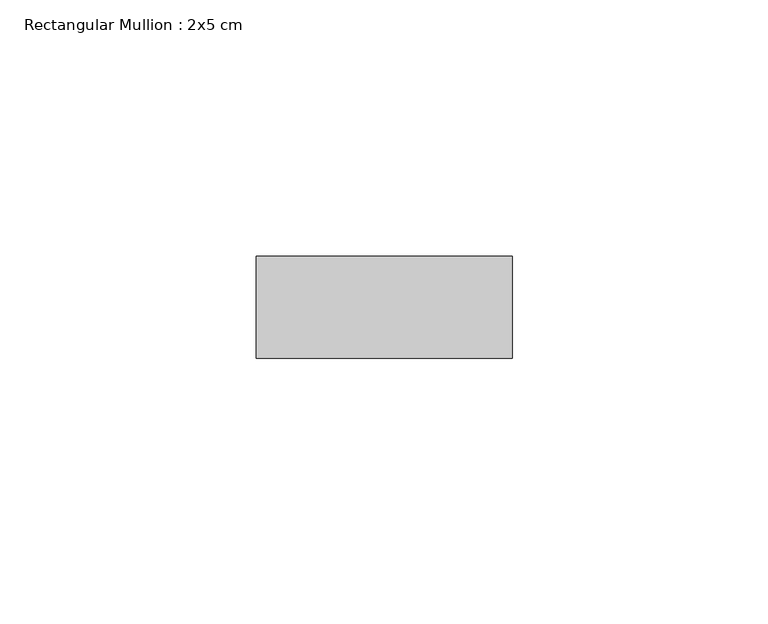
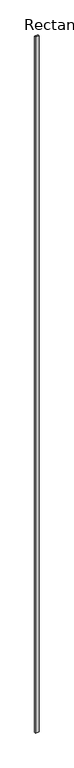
"""IFC4 building model written with IfcOpenShell, lengths in millimetres: member geometry, Rectangular Mullion : 2x5 cm."""

import ifcopenshell
import ifcopenshell.guid

model = None  # the IFC model being written
_history = None  # IfcOwnerHistory: only IFC2X3 demands one
_inside = {}  # id of a spatial element -> (the spatial element, [elements in it])
_under = {}  # id of a project, library or spatial element -> (it, [spatial elements below it])
_declared = {}  # id of a project -> (the project, [libraries it declares])
_typed = {}  # id of a type object -> (the type object, [elements of that type])
_made_of = {}  # id of a material, layer set ... -> (it, [elements and type objects made of it])


def new_model(schema):
    """Start an empty IFC model of exactly this schema.

    Asked for "IFC4X3", IfcOpenShell would pick the latest addendum, in which some entities
    have other attributes; the version numbers below select the first issue.
    IFC2X3 requires an IfcOwnerHistory on every rooted entity: one is made here for all.
    """
    global model, _history
    if schema == "IFC4X3":
        model = ifcopenshell.file(schema_version=(4, 3, 0, 0))
    else:
        model = ifcopenshell.file(schema=schema)
    _inside.clear()
    _under.clear()
    _declared.clear()
    _typed.clear()
    _made_of.clear()
    _history = None
    if model.schema == "IFC2X3":
        org = make("IfcOrganization", Name="unknown")
        user = make(
            "IfcPersonAndOrganization",
            ThePerson=make("IfcPerson", FamilyName="unknown"),
            TheOrganization=org,
        )
        app = make(
            "IfcApplication",
            ApplicationDeveloper=org,
            Version="unknown",
            ApplicationFullName="unknown",
            ApplicationIdentifier="unknown",
        )
        _history = make(
            "IfcOwnerHistory",
            OwningUser=user,
            OwningApplication=app,
            ChangeAction="ADDED",
            CreationDate=0,
        )
    return model


def make(cls, **values):
    """One entity of the class cls with the attributes given. An attribute that is None is left unset."""
    return model.create_entity(
        cls, **{name: value for name, value in values.items() if value is not None}
    )


def rooted(cls, **values):
    """An entity with a GlobalId (a new one), such as an element, a storey or a relation."""
    return make(cls, GlobalId=ifcopenshell.guid.new(), OwnerHistory=_history, **values)


def si_unit(unit_type, name, prefix=None):
    """IfcSIUnit, for example si_unit("LENGTHUNIT", "METRE", prefix="MILLI")."""
    return make("IfcSIUnit", UnitType=unit_type, Prefix=prefix, Name=name)


def assignment(units):
    """IfcUnitAssignment: the units of a project."""
    return None if units is None else make("IfcUnitAssignment", Units=units)


def point(xyz):
    """IfcCartesianPoint."""
    return None if xyz is None else make("IfcCartesianPoint", Coordinates=xyz)


def direction(xyz):
    """IfcDirection."""
    return None if xyz is None else make("IfcDirection", DirectionRatios=xyz)


def frame(location, z_axis=None, x_axis=None):
    """IfcAxis2Placement3D, a coordinate frame: its origin and axes. An axis left out is left unset."""
    return make(
        "IfcAxis2Placement3D",
        Location=point(location),
        Axis=direction(z_axis),
        RefDirection=direction(x_axis),
    )


def origin():
    """The frame at (0, 0, 0) with its axes left unset."""
    return frame((0.0, 0.0, 0.0))


def place(relative_to, where):
    """IfcLocalPlacement: puts the frame where relative to a parent placement (None: the world)."""
    return make(
        "IfcLocalPlacement", PlacementRelTo=relative_to, RelativePlacement=where
    )


def context(
    kind, dimensions, precision=None, world=None, true_north=None, identifier=None
):
    """IfcGeometricRepresentationContext, for example the 3D "Model" context."""
    return make(
        "IfcGeometricRepresentationContext",
        ContextIdentifier=identifier,
        ContextType=kind,
        CoordinateSpaceDimension=dimensions,
        Precision=precision,
        WorldCoordinateSystem=world,
        TrueNorth=true_north,
    )


def project(units=None, contexts=None):
    """IfcProject with its units and contexts."""
    return rooted(
        "IfcProject",
        Name="project",
        RepresentationContexts=contexts,
        UnitsInContext=assignment(units),
    )


def spatial(cls, under=None, at=None, **own):
    """A site, building, storey or space (cls), placed at a placement, below another one or the project."""
    s = rooted(cls, ObjectPlacement=at, **own)
    if under is not None:
        _under.setdefault(under.id(), (under, []))[1].append(s)
    return s


def polyline(points):
    """IfcPolyline through the points."""
    return make("IfcPolyline", Points=[point(p) for p in points])


def outline(outer, holes=None, kind="AREA"):
    """IfcArbitraryClosedProfileDef: a profile drawn as a closed curve; with holes, ...WithVoids."""
    if holes is None:
        return make("IfcArbitraryClosedProfileDef", ProfileType=kind, OuterCurve=outer)
    return make(
        "IfcArbitraryProfileDefWithVoids",
        ProfileType=kind,
        OuterCurve=outer,
        InnerCurves=holes,
    )


def extrude(swept, where, along, depth):
    """IfcExtrudedAreaSolid: the profile swept, set in the frame where, extruded along a direction by depth."""
    return make(
        "IfcExtrudedAreaSolid",
        SweptArea=swept,
        Position=where,
        ExtrudedDirection=direction(along),
        Depth=depth,
    )


def shape(context_of_items, identifier, shape_type, items):
    """IfcShapeRepresentation: the items that make up one representation, for example the "Body"."""
    return make(
        "IfcShapeRepresentation",
        ContextOfItems=context_of_items,
        RepresentationIdentifier=identifier,
        RepresentationType=shape_type,
        Items=items,
    )


def source(mapping_origin, context_of_items, identifier, shape_type, items):
    """IfcRepresentationMap: a shape defined once, which mapped items show again and again."""
    return make(
        "IfcRepresentationMap",
        MappingOrigin=mapping_origin,
        MappedRepresentation=shape(context_of_items, identifier, shape_type, items),
    )


def transform(
    local_origin,
    x_axis=None,
    y_axis=None,
    z_axis=None,
    scale=None,
    scale2=None,
    scale3=None,
    uniform=True,
):
    """IfcCartesianTransformationOperator3D, or its non-uniform kind. x_axis, y_axis, z_axis: its Axis1, 2, 3."""
    if uniform:
        return make(
            "IfcCartesianTransformationOperator3D",
            Axis1=direction(x_axis),
            Axis2=direction(y_axis),
            LocalOrigin=point(local_origin),
            Scale=scale,
            Axis3=direction(z_axis),
        )
    return make(
        "IfcCartesianTransformationOperator3DnonUniform",
        Axis1=direction(x_axis),
        Axis2=direction(y_axis),
        LocalOrigin=point(local_origin),
        Scale=scale,
        Axis3=direction(z_axis),
        Scale2=scale2,
        Scale3=scale3,
    )


def mapped(mapping_source, mapping_target):
    """IfcMappedItem: shows the shape of a source again, moved by a transform."""
    return make(
        "IfcMappedItem", MappingSource=mapping_source, MappingTarget=mapping_target
    )


def made_of(thing, what):
    """Note that an element or type object is made of a material, layer set ...; save() writes the relation."""
    if what is not None:
        _made_of.setdefault(what.id(), (what, []))[1].append(thing)
    return thing


def element(
    cls,
    number,
    at=None,
    inside=None,
    cuts=None,
    type_object=None,
    material=None,
    context=None,
    identifier="Body",
    shape_type=None,
    held_by="IfcProductDefinitionShape",
    body=None,
    shapes=None,
    **own,
):
    """One element of the class cls, such as IfcWall. Its Tag is "e" and its number.

    at: its placement. inside: the storey or other place that contains it. cuts: it is an
    opening in that element (IfcRelVoidsElement). A single representation is given by context,
    identifier, shape_type and body (its items); several are given by shapes. held_by: the class
    of the entity that holds the representations. save() writes the other relations.
    """
    e = rooted(cls, Tag="e%d" % number, ObjectPlacement=at, **own)
    if body is not None:
        shapes = [shape(context, identifier, shape_type, body)]
    if shapes is not None:
        e.Representation = make(held_by, Representations=shapes)
    if inside is not None:
        _inside.setdefault(inside.id(), (inside, []))[1].append(e)
    if cuts is not None:
        rooted(
            "IfcRelVoidsElement", RelatingBuildingElement=cuts, RelatedOpeningElement=e
        )
    if type_object is not None:
        _typed.setdefault(type_object.id(), (type_object, []))[1].append(e)
    return made_of(e, material)


def aggregate(whole, parts):
    """IfcRelAggregates: a whole, such as a stair, and the parts it consists of."""
    return rooted("IfcRelAggregates", RelatingObject=whole, RelatedObjects=parts)


def save(model, path):
    """Write the relations noted so far, then the file.

    IfcRelAggregates (storeys below a building ...), IfcRelContainedInSpatialStructure (elements
    in a storey), IfcRelDefinesByType, IfcRelAssociatesMaterial and IfcRelDeclares: one each for
    every whole, place, type object, material and project.
    """
    for whole, parts in _under.values():
        aggregate(whole, parts)
    for where, things in _inside.values():
        rooted(
            "IfcRelContainedInSpatialStructure",
            RelatedElements=things,
            RelatingStructure=where,
        )
    for kind, things in _typed.values():
        rooted("IfcRelDefinesByType", RelatedObjects=things, RelatingType=kind)
    for what, things in _made_of.values():
        rooted("IfcRelAssociatesMaterial", RelatedObjects=things, RelatingMaterial=what)
    for by, libraries in _declared.values():
        rooted("IfcRelDeclares", RelatingContext=by, RelatedDefinitions=libraries)
    model.write(path)


def rectangular_mullion_2x5_cm_497700b8(model_context):
    return source(origin(), model_context, "Body", "SweptSolid", [
        extrude(outline(polyline([(50.0, 20.0), (50.0, 0.0), (0.0, 0.0), (0.0, 20.0), (50.0, 20.0)])), frame((0.0, 0.0, -10384.864762), z_axis=(0.0, 0.0, 1.0), x_axis=(1.0, 0.0, 0.0)), (0.0, 0.0, 1.0), 10384.864762),
    ])


if __name__ == "__main__":
    model = new_model("IFC4")
    model_context = context("Model", 3, world=origin())
    ifc_project = project(units=[si_unit("LENGTHUNIT", "METRE", prefix="MILLI")], contexts=[model_context])
    site = spatial("IfcSite", under=ifc_project)
    building = spatial("IfcBuilding", under=site)
    placement = place(None, origin())
    rectangular_mullion_2x5_cm_shape = rectangular_mullion_2x5_cm_497700b8(model_context)
    element("IfcMember", 1, ObjectType="Rectangular Mullion : 2x5 cm", at=placement, inside=building, context=model_context, shape_type="MappedRepresentation", body=[
        mapped(rectangular_mullion_2x5_cm_shape, transform((0.0, 0.0, 0.0), x_axis=(1.0, 0.0, 0.0), y_axis=(0.0, 1.0, 0.0), z_axis=(0.0, 0.0, 1.0))),
    ])
    save(model, "model.ifc")
